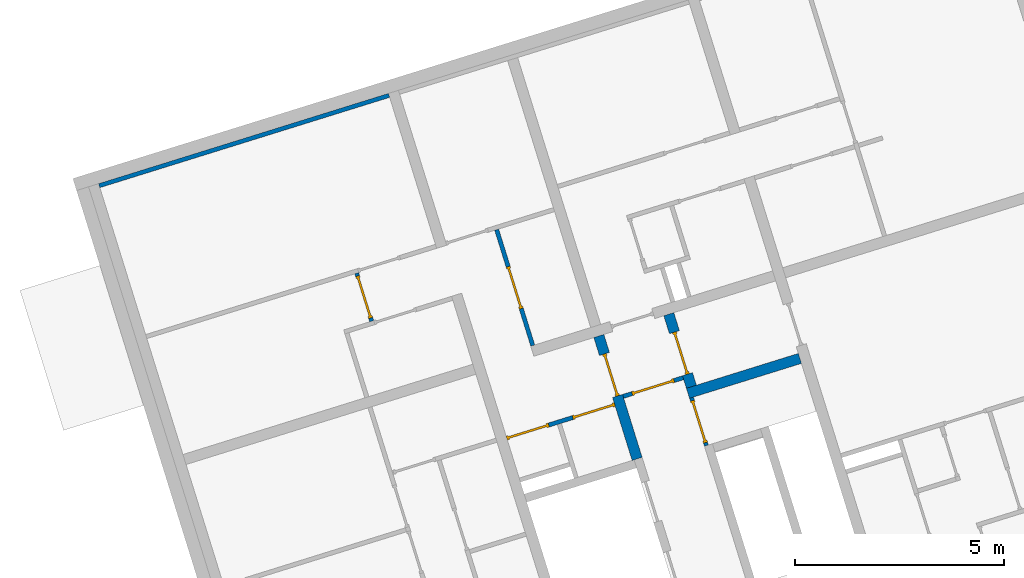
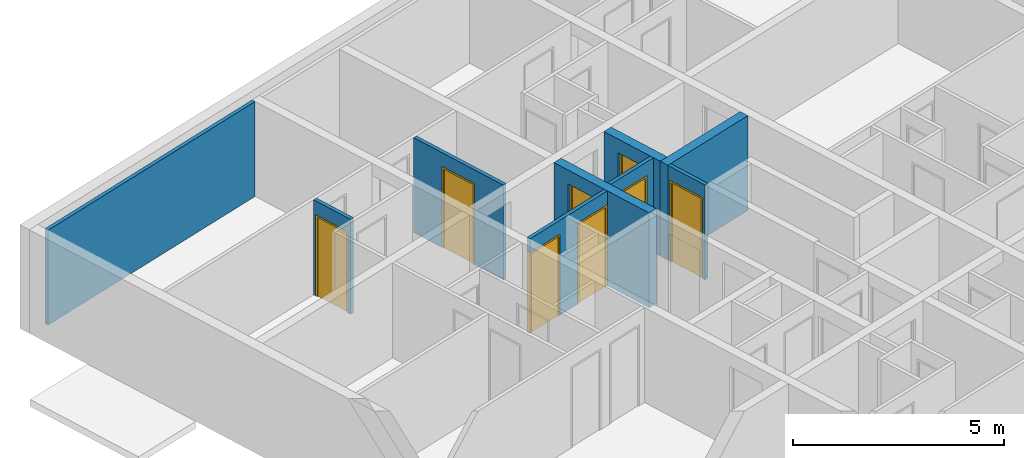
# One storey, part 5 of 9: 9 walls, 8 doors, 10 openings.
"""IFC4 building model written with IfcOpenShell, lengths in metres."""

from ifc_helpers import new_model, entity, si_unit, converted_unit, direction, frame, origin, place, context, subcontext, project, spatial, indexed_curve, outline, extrude, polygons, source, transform, mapped, material, constituent, constituent_set, type_object, type_shapes, element, fill, save


model = new_model("IFC4")

# Units and contexts
model_context = context("Model", 3, precision=1e-05, world=origin(), true_north=direction((6.12323399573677e-17, 1.0)))
body_context = subcontext(model_context, "Body", "Model", "MODEL_VIEW")
ifc_project = project(units=[si_unit("LENGTHUNIT", "METRE"), si_unit("AREAUNIT", "SQUARE_METRE"), si_unit("VOLUMEUNIT", "CUBIC_METRE"), converted_unit("PLANEANGLEUNIT", "DEGREE", entity("IfcPlaneAngleMeasure", 0.0174532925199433), si_unit("PLANEANGLEUNIT", "RADIAN"), dimensions=[0, 0, 0, 0, 0, 0, 0])], contexts=[model_context])

# Site, building, storey
site_placement = place(None, frame((13.1347999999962, 11.9886000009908, 0.0), z_axis=(0.0, 0.0, 1.0), x_axis=(0.954770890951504, 0.297342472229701, 0.0)))
site = spatial("IfcSite", under=ifc_project, at=site_placement, Name="Schiehaven", CompositionType="ELEMENT")
building_placement = place(site_placement, origin())
building = spatial("IfcBuilding", under=site, at=building_placement, Name="VORM huis", CompositionType="ELEMENT")
storey_placement = place(building_placement, frame((0.0, 0.0, 24.9)))
storey = spatial("IfcBuildingStorey", under=building, at=storey_placement, Name="08 achtste verdieping", CompositionType="ELEMENT", Elevation=24.9)

# Walls
ifc_material_1 = material(Name="ntb_ntb_ntb", Category="Miscellaneous")
wall_type_1 = type_object("IfcWallType", Name="Basic Wall:21_WA_gevel_binnenspouwwand 100mm_gen", PredefinedType="STANDARD")
wall_1_placement = place(storey_placement, frame((5.12500000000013, 29.0500000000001, 0.0)))
element("IfcWall", 1, at=wall_1_placement, inside=storey, type_object=wall_type_1, material=ifc_material_1, Name="Binnenspouwblad", ObjectType="Wand", PredefinedType="NOTDEFINED", context=body_context, shape_type="SweptSolid", body=[
    extrude(outline(indexed_curve([(7.24999999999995, 0.0500000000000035), (-1.62265042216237e-16, 0.0500000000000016), (1.62265042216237e-16, -0.0500000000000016), (7.24999999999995, -0.0499999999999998), (7.24999999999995, 0.0500000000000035)], self_intersect=False)), origin(), (0.0, 0.0, 1.0), 2.75),
])
wall_type_2 = type_object("IfcWallType", Name="Basic Wall:22_WA_afbouw_binnenwand 250mm_gen", PredefinedType="STANDARD")
wall_2_placement = place(storey_placement, frame((19.8750000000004, 20.1349999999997, 0.0), z_axis=(0.0, 0.0, 1.0), x_axis=(-1.0, 0.0, 0.0)))
element("IfcWall", 2, at=wall_2_placement, inside=storey, type_object=wall_type_2, material=ifc_material_1, Name="Binnenwand", ObjectType="Wand", PredefinedType="NOTDEFINED", context=body_context, shape_type="SweptSolid", body=[
    extrude(outline(indexed_curve([(2.80000000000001, 0.125000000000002), (2.21820971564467e-15, 0.125000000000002), (2.1132588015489e-15, -0.125000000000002), (2.80000000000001, -0.125000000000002), (2.80000000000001, 0.125000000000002)], self_intersect=False)), origin(), (0.0, 0.0, 1.0), 2.75),
])

# Wall, opening, door
wall_3_placement = place(storey_placement, frame((17.2000000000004, 20.2599999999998, 0.0), z_axis=(0.0, 0.0, 1.0), x_axis=(0.0, 1.0, 0.0)))
wall_3 = element("IfcWall", 3, at=wall_3_placement, inside=storey, type_object=wall_type_2, material=ifc_material_1, Name="Binnenwand", ObjectType="Wand", PredefinedType="NOTDEFINED", context=body_context, shape_type="Tessellation", body=[
    polygons([(0.0, -0.124999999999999, 0.0), (0.315000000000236, -0.124999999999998, 0.0), (0.315000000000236, -0.124999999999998, 2.34999999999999), (1.36500000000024, -0.124999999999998, 2.34999999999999), (1.36500000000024, -0.124999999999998, 0.0), (1.81500000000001, -0.124999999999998, 0.0), (1.81500000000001, -0.124999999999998, 2.75), (0.0, -0.124999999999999, 2.75), (0.315000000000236, 0.125000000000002, 2.34999999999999), (0.315000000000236, 0.125000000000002, 0.0), (0.215000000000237, 0.125000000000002, 0.0), (0.0, 0.125, 0.0), (0.0, 0.125, 2.75), (0.215000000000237, 0.125000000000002, 2.75), (0.315000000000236, 0.125000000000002, 2.75), (1.81500000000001, 0.124999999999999, 2.75), (1.81500000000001, 0.124999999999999, 0.0), (1.36500000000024, 0.125000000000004, 0.0), (1.36500000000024, 0.125000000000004, 2.34999999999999)], [[[1, 2, 3, 4, 5, 6, 7, 8]], [[9, 10, 11, 12, 13, 14, 15, 16, 17, 18, 19]], [[12, 11, 10, 2, 1]], [[7, 6, 17, 16]], [[8, 7, 16, 15, 14, 13]], [[5, 4, 19, 18]], [[3, 2, 10, 9]], [[4, 3, 9, 19]], [[1, 8, 13, 12]], [[18, 17, 6, 5]]], closed=True),
])
opening_1_placement = place(wall_3_placement, frame((0.315000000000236, -0.125000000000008, 0.0)))
opening_1 = element("IfcOpeningElement", 4, at=opening_1_placement, cuts=wall_3, Name="Woningtoegangsdeur", PredefinedType="OPENING", context=body_context, shape_type="SweptSolid", body=[
    extrude(outline(indexed_curve([(2.34999999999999, 1.05), (0.0, 1.05), (0.0, 0.0), (2.34999999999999, 0.0), (2.34999999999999, 1.05)], self_intersect=False)), frame((0.0, 0.0, 0.0), z_axis=(0.0, 1.0, 0.0), x_axis=(0.0, 0.0, 1.0)), (0.0, 0.0, 1.0), 0.25),
])
ifc_material_2 = material(Name="PD_a_binnenwandopeningen", Category="Miscellaneous")
ifc_constituent_1 = constituent(ifc_material_2, Name="PD_a_binnenwandopeningen", Category="Miscellaneous")
ifc_material_3 = material(Name="metaal_aluminium_ntb", Category="Miscellaneous")
ifc_constituent_2 = constituent(ifc_material_3, Name="metaal_aluminium_ntb", Category="Miscellaneous")
ifc_constituent_set_1 = constituent_set(constituents=[ifc_constituent_1, ifc_constituent_2])
door_type_1 = type_object("IfcDoorType", Name="32_DO_binnendeur enkel:woningtoegangsdeur", OperationType="REVOLVING", PredefinedType="DOOR")
shared_shape_1 = source(origin(), body_context, "Body", "SweptSolid", [
    extrude(outline(indexed_curve([(-1.16249999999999, -0.525000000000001), (1.18749999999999, -0.525), (1.18749999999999, 0.525000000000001), (-1.16249999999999, 0.525000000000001), (-1.16249999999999, 0.475), (1.13749999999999, 0.475), (1.13749999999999, -0.475), (-1.16249999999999, -0.475), (-1.16249999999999, -0.525000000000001)], self_intersect=False)), frame((0.525000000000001, 0.0749999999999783, 1.16249999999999), z_axis=(0.0, 1.0, 0.0), x_axis=(0.0, 0.0, 1.0)), (0.0, 0.0, 1.0), 0.1),
    extrude(outline(indexed_curve([(-0.025, -0.475), (0.025, -0.475), (0.025, 0.475), (-0.025, 0.475), (-0.025, -0.475)], self_intersect=False)), frame((0.525000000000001, 0.12499999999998, 0.0), z_axis=(0.0, 0.0, 1.0), x_axis=(0.0, 1.0, 0.0)), (0.0, 0.0, 1.0), 2.29999999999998),
])
type_shapes(door_type_1, [shared_shape_1])
door_1_placement = place(opening_1_placement, origin())
door_1 = element("IfcDoor", 5, at=door_1_placement, inside=storey, type_object=door_type_1, material=ifc_constituent_set_1, Name="Woningtoegangsdeur", ObjectType="Deur", OperationType="REVOLVING", OverallHeight=2.34999999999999, OverallWidth=1.05, PredefinedType="DOOR", context=body_context, shape_type="MappedRepresentation", body=[
    mapped(shared_shape_1, transform((0.0, 0.0, 0.0), scale=1.0)),
])
fill(opening_1, door_1)

wall_4_placement = place(storey_placement, frame((15.4500000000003, 19.0, 0.0), z_axis=(0.0, 0.0, 1.0), x_axis=(0.0, 1.0, 0.0)))
wall_4 = element("IfcWall", 6, at=wall_4_placement, inside=storey, type_object=wall_type_2, material=ifc_material_1, Name="Binnenwand", ObjectType="Wand", PredefinedType="NOTDEFINED", context=body_context, shape_type="Tessellation", body=[
    polygons([(2.62500000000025, -0.124999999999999, 2.34999999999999), (2.62500000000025, -0.124999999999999, 0.0), (3.075, -0.124999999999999, 0.0), (3.075, -0.124999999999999, 2.75), (1.57500000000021, -0.124999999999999, 2.75), (1.47500000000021, -0.124999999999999, 2.75), (4.33146851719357e-15, -0.125, 2.75), (4.33146851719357e-15, -0.125, 0.0), (1.47500000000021, -0.124999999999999, 0.0), (1.57500000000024, -0.124999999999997, 0.0), (1.57500000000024, -0.124999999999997, 2.34999999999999), (3.075, 0.125, 0.0), (2.62500000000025, 0.125000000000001, 0.0), (2.62500000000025, 0.125000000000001, 2.34999999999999), (1.57500000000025, 0.125000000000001, 2.34999999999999), (1.57500000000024, 0.125000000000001, 0.0), (0.0, 0.125, 0.0), (0.0, 0.125, 2.75), (3.075, 0.125, 2.75)], [[[1, 2, 3, 4, 5, 6, 7, 8, 9, 10, 11]], [[12, 13, 14, 15, 16, 17, 18, 19]], [[10, 9, 8, 17, 16]], [[4, 3, 12, 19]], [[7, 6, 5, 4, 19, 18]], [[8, 7, 18, 17]], [[16, 15, 11, 10]], [[14, 13, 2, 1]], [[15, 14, 1, 11]], [[3, 2, 13, 12]]], closed=True),
])
opening_2_placement = place(wall_4_placement, frame((2.62500000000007, 0.124999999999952, 0.0)))
opening_2 = element("IfcOpeningElement", 7, at=opening_2_placement, cuts=wall_4, Name="Woningtoegangsdeur", PredefinedType="OPENING", context=body_context, shape_type="SweptSolid", body=[
    extrude(outline(indexed_curve([(2.34999999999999, 1.05), (0.0, 1.05), (0.0, -4.02144990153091e-29), (2.34999999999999, -4.02144990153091e-29), (2.34999999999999, 1.05)], self_intersect=False)), frame((0.0, 0.0, 0.0), z_axis=(0.0, -1.0, 0.0), x_axis=(0.0, 0.0, 1.0)), (0.0, 0.0, 1.0), 0.25),
])
ifc_constituent_3 = constituent(ifc_material_2, Name="PD_a_binnenwandopeningen", Category="Miscellaneous")
ifc_constituent_4 = constituent(ifc_material_3, Name="metaal_aluminium_ntb", Category="Miscellaneous")
ifc_constituent_set_2 = constituent_set(constituents=[ifc_constituent_3, ifc_constituent_4])
door_2_placement = place(opening_2_placement, frame((0.0, 0.0, 0.0), z_axis=(0.0, 0.0, 1.0), x_axis=(-1.0, 0.0, 0.0)))
door_2 = element("IfcDoor", 8, at=door_2_placement, inside=storey, type_object=door_type_1, material=ifc_constituent_set_2, Name="Woningtoegangsdeur", ObjectType="Deur", OperationType="REVOLVING", OverallHeight=2.34999999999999, OverallWidth=1.05, PredefinedType="DOOR", context=body_context, shape_type="MappedRepresentation", body=[
    mapped(shared_shape_1, transform((0.0, 0.0, 0.0), scale=1.0)),
])
fill(opening_2, door_2)

wall_type_3 = type_object("IfcWallType", Name="Basic Wall:22_WA_afbouw_binnenwand 100mm_gen", PredefinedType="STANDARD")
wall_5_placement = place(storey_placement, frame((17.1250000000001, 20.0099999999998, 0.0), z_axis=(0.0, 0.0, 1.0), x_axis=(0.0, -1.0, 0.0)))
wall_5 = element("IfcWall", 9, at=wall_5_placement, inside=storey, type_object=wall_type_3, material=ifc_material_1, Name="Binnenwand", ObjectType="Wand", PredefinedType="NOTDEFINED", context=body_context, shape_type="Tessellation", body=[
    polygons([(1.19999999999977, -0.050000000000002, 0.0), (1.19999999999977, -0.050000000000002, 2.75), (0.0, -0.0500000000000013, 2.75), (0.0, -0.0500000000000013, 0.0), (0.074999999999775, -0.0500000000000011, 0.0), (0.074999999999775, -0.0500000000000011, 2.34999999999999), (1.12499999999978, -0.0500000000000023, 2.34999999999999), (1.12499999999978, -0.0500000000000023, 0.0), (1.19999999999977, 0.0499999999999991, 2.75), (1.19999999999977, 0.0499999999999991, 0.0), (1.12499999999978, 0.0499999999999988, 0.0), (1.12499999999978, 0.0499999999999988, 2.34999999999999), (0.074999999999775, 0.0499999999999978, 2.34999999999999), (0.074999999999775, 0.0499999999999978, 0.0), (0.0, 0.0499999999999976, 0.0), (0.0, 0.0499999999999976, 2.75)], [[[1, 2, 3, 4, 5, 6, 7, 8]], [[9, 10, 11, 12, 13, 14, 15, 16]], [[4, 15, 14, 5]], [[2, 1, 10, 9]], [[3, 2, 9, 16]], [[13, 6, 5, 14]], [[6, 13, 12, 7]], [[7, 12, 11, 8]], [[4, 3, 16, 15]], [[10, 1, 8, 11]]], closed=True),
])
opening_3_placement = place(wall_5_placement, frame((0.074999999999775, -0.0500000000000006, 0.0)))
opening_3 = element("IfcOpeningElement", 10, at=opening_3_placement, cuts=wall_5, Name="Vluchtdeur", PredefinedType="OPENING", context=body_context, shape_type="SweptSolid", body=[
    extrude(outline(indexed_curve([(2.34999999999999, 1.05), (0.0, 1.05), (0.0, -3.51974282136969e-30), (2.34999999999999, -3.51974282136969e-30), (2.34999999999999, 1.05)], self_intersect=False)), frame((0.0, 0.0, 0.0), z_axis=(0.0, 1.0, 0.0), x_axis=(0.0, 0.0, 1.0)), (0.0, 0.0, 1.0), 0.1),
])
ifc_constituent_5 = constituent(ifc_material_2, Name="PD_a_binnenwandopeningen", Category="Miscellaneous")
ifc_constituent_6 = constituent(ifc_material_3, Name="metaal_aluminium_ntb", Category="Miscellaneous")
ifc_constituent_set_3 = constituent_set(constituents=[ifc_constituent_5, ifc_constituent_6])
door_type_2 = type_object("IfcDoorType", Name="32_DO_binnendeur enkel:binnendeur zelfsluitend 30min", OperationType="NOTDEFINED", PredefinedType="DOOR")
shared_shape_2 = source(origin(), body_context, "Body", "SweptSolid", [
    extrude(outline(indexed_curve([(-1.16249999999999, -0.525000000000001), (1.18749999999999, -0.525), (1.18749999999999, 0.525), (-1.16249999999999, 0.525), (-1.16249999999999, 0.475), (1.13749999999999, 0.475), (1.13749999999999, -0.475), (-1.16249999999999, -0.475), (-1.16249999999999, -0.525000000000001)], self_intersect=False)), frame((0.525000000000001, 0.0, 1.16249999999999), z_axis=(0.0, 1.0, 0.0), x_axis=(0.0, 0.0, 1.0)), (0.0, 0.0, 1.0), 0.1),
    extrude(outline(indexed_curve([(-0.025, -0.475), (0.025, -0.475), (0.025, 0.475), (-0.025, 0.475), (-0.025, -0.475)], self_intersect=False)), frame((0.525000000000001, 0.0499999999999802, 0.0), z_axis=(0.0, 0.0, 1.0), x_axis=(0.0, 1.0, 0.0)), (0.0, 0.0, 1.0), 2.29999999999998),
])
type_shapes(door_type_2, [shared_shape_2])
door_3_placement = place(opening_3_placement, origin())
door_3 = element("IfcDoor", 11, at=door_3_placement, inside=storey, type_object=door_type_2, material=ifc_constituent_set_3, Name="Vluchtdeur", ObjectType="Deur", OperationType="NOTDEFINED", OverallHeight=2.34999999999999, OverallWidth=1.05, PredefinedType="DOOR", context=body_context, shape_type="MappedRepresentation", body=[
    mapped(shared_shape_2, transform((0.0, 0.0, 0.0), scale=1.0)),
])
fill(opening_3, door_3)

wall_6_placement = place(storey_placement, frame((17.0750000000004, 20.525, 0.0), z_axis=(0.0, 0.0, 1.0), x_axis=(-1.0, 0.0, 0.0)))
wall_6 = element("IfcWall", 12, at=wall_6_placement, inside=storey, type_object=wall_type_3, material=ifc_material_1, Name="Binnenwand", ObjectType="Wand", PredefinedType="NOTDEFINED", context=body_context, shape_type="Tessellation", body=[
    polygons([(1.50000000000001, -0.0499999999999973, 2.75), (7.85851977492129e-16, -0.0499999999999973, 2.75), (7.85851977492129e-16, -0.0499999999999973, 2.34999999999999), (7.85851977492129e-16, -0.0499999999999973, 0.0), (0.22500000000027, -0.0499999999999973, 0.0), (0.225000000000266, -0.0499999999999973, 2.34999999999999), (1.27500000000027, -0.0499999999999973, 2.34999999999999), (1.27500000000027, -0.0499999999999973, 0.0), (1.50000000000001, -0.0499999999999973, 0.0), (1.5, -0.0499999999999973, 2.34999999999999), (3.01092306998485e-15, 0.0500000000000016, 2.75), (1.50000000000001, 0.0500000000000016, 2.75), (1.50000000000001, 0.0500000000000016, 0.0), (1.27500000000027, 0.0500000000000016, 0.0), (1.27500000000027, 0.0500000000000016, 2.34999999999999), (0.225000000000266, 0.0500000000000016, 2.34999999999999), (0.22500000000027, 0.0500000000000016, 0.0), (3.01092306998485e-15, 0.0500000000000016, 0.0)], [[[1, 2, 3, 4, 5, 6, 7, 8, 9, 10]], [[11, 12, 13, 14, 15, 16, 17, 18]], [[4, 18, 17, 5]], [[2, 1, 12, 11]], [[16, 6, 5, 17]], [[6, 16, 15, 7]], [[7, 15, 14, 8]], [[1, 10, 9, 13, 12]], [[4, 3, 2, 11, 18]], [[13, 9, 8, 14]]], closed=True),
])
opening_4_placement = place(wall_6_placement, frame((0.225000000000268, -0.0500000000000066, 0.0)))
opening_4 = element("IfcOpeningElement", 13, at=opening_4_placement, cuts=wall_6, Name="Vluchtdeur", PredefinedType="OPENING", context=body_context, shape_type="SweptSolid", body=[
    extrude(outline(indexed_curve([(2.34999999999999, 1.05), (0.0, 1.05), (0.0, 1.35358391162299e-15), (2.34999999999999, 1.35358391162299e-15), (2.34999999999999, 1.05)], self_intersect=False)), frame((0.0, 0.0, 0.0), z_axis=(0.0, 1.0, 0.0), x_axis=(0.0, 0.0, 1.0)), (0.0, 0.0, 1.0), 0.1),
])
ifc_constituent_7 = constituent(ifc_material_2, Name="PD_a_binnenwandopeningen", Category="Miscellaneous")
ifc_constituent_8 = constituent(ifc_material_3, Name="metaal_aluminium_ntb", Category="Miscellaneous")
ifc_constituent_set_4 = constituent_set(constituents=[ifc_constituent_7, ifc_constituent_8])
door_4_placement = place(opening_4_placement, origin())
door_4 = element("IfcDoor", 14, at=door_4_placement, inside=storey, type_object=door_type_2, material=ifc_constituent_set_4, Name="Vluchtdeur", ObjectType="Deur", OperationType="NOTDEFINED", OverallHeight=2.34999999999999, OverallWidth=1.05, PredefinedType="DOOR", context=body_context, shape_type="MappedRepresentation", body=[
    mapped(shared_shape_2, transform((0.0, 0.0, 0.0), scale=1.0)),
])
fill(opening_4, door_4)

# Wall, openings, door
wall_7_placement = place(storey_placement, frame((10.3750000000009, 24.0250000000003, 0.0), z_axis=(0.0, 0.0, 1.0), x_axis=(0.0, 1.0, 0.0)))
wall_7 = element("IfcWall", 15, at=wall_7_placement, inside=storey, type_object=wall_type_3, material=ifc_material_1, Name="Binnenwand", ObjectType="Wand", PredefinedType="NOTDEFINED", context=body_context, shape_type="Tessellation", body=[
    polygons([(1.19999999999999, -0.0499999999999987, 2.75), (0.0, -0.0500000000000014, 2.75), (0.0, -0.0499999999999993, 2.34999999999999), (0.0, -0.0500000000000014, 0.0), (0.0799999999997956, -0.0500000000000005, 0.0), (0.0799999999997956, -0.0500000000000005, 2.34999999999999), (1.1299999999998, -0.0499999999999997, 2.34999999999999), (1.1299999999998, -0.0499999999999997, 0.0), (1.19999999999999, -0.0499999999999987, 0.0), (1.19999999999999, -0.0500000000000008, 2.34999999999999), (0.0, 0.0499999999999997, 2.75), (1.19999999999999, 0.0499999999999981, 2.75), (1.19999999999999, 0.0499999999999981, 0.0), (1.1299999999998, 0.0499999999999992, 0.0), (1.1299999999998, 0.0499999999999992, 2.34999999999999), (0.0799999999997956, 0.0499999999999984, 2.34999999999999), (0.0799999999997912, 0.0499999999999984, 0.0), (0.0, 0.0499999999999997, 0.0)], [[[1, 2, 3, 4, 5, 6, 7, 8, 9, 10]], [[11, 12, 13, 14, 15, 16, 17, 18]], [[4, 18, 17, 5]], [[2, 1, 12, 11]], [[1, 10, 9, 13, 12]], [[4, 3, 2, 11, 18]], [[7, 15, 14, 8]], [[15, 7, 6, 16]], [[16, 6, 5, 17]], [[13, 9, 8, 14]]], closed=True),
])
opening_5_placement = place(wall_7_placement, frame((1.1299999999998, 0.0500000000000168, 0.0)))
opening_5 = element("IfcOpeningElement", 16, at=opening_5_placement, cuts=wall_7, Name="Binnendeur", PredefinedType="OPENING", context=body_context, shape_type="SweptSolid", body=[
    extrude(outline(indexed_curve([(2.34999999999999, 0.0), (2.34999999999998, 1.05), (0.0, 1.05), (2.16573425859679e-15, 0.0), (2.34999999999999, 0.0)], self_intersect=False)), frame((0.0, 0.0, 0.0), z_axis=(0.0, -1.0, 0.0), x_axis=(0.0, 0.0, 1.0)), (0.0, 0.0, 1.0), 0.1),
])
opening_6_placement = place(wall_7_placement, frame((-24.0250000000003, 10.3750000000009, 0.0), z_axis=(0.0, 0.0, 1.0), x_axis=(0.0, -1.0, 0.0)))
element("IfcOpeningElement", 17, at=opening_6_placement, cuts=wall_7, Name="Binnendeur", PredefinedType="OPENING", context=body_context, shape_type="SweptSolid", body=[
    extrude(outline(indexed_curve([(-1.17499999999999, -0.524999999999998), (1.17499999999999, -0.525000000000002), (1.17499999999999, 0.525000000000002), (-1.17499999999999, 0.525000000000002), (-1.17499999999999, -0.524999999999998)], self_intersect=False)), frame((11.8490000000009, 24.6300000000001, 1.17499999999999), z_axis=(-1.0, 0.0, 0.0), x_axis=(0.0, 0.0, -1.0)), (0.0, 0.0, 1.0), 3.048),
])
ifc_constituent_9 = constituent(ifc_material_2, Name="PD_a_binnenwandopeningen", Category="Miscellaneous")
ifc_constituent_10 = constituent(ifc_material_3, Name="metaal_aluminium_ntb", Category="Miscellaneous")
ifc_constituent_set_5 = constituent_set(constituents=[ifc_constituent_9, ifc_constituent_10])
door_type_3 = type_object("IfcDoorType", Name="32_DO_binnendeur enkel:binnendeur", OperationType="REVOLVING", PredefinedType="DOOR")
shared_shape_3 = source(origin(), body_context, "Body", "SweptSolid", [
    extrude(outline(indexed_curve([(0.475, -1.16249999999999), (0.525, -1.16249999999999), (0.525, 1.18749999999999), (-0.525, 1.18749999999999), (-0.525, -1.16249999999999), (-0.475, -1.16249999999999), (-0.475, 1.13749999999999), (0.475, 1.13749999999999), (0.475, -1.16249999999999)], self_intersect=False)), frame((0.525000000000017, 0.100000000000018, 1.16249999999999), z_axis=(0.0, -1.0, 0.0), x_axis=(1.0, 0.0, 0.0)), (0.0, 0.0, 1.0), 0.1),
    extrude(outline(indexed_curve([(-0.475, -0.025), (0.475, -0.025), (0.475, 0.025), (-0.475, 0.025), (-0.475, -0.025)], self_intersect=False)), frame((0.525000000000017, 0.0499999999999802, 0.0)), (0.0, 0.0, 1.0), 2.29999999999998),
])
door_5_placement = place(opening_5_placement, frame((0.0, 0.0, 0.0), z_axis=(0.0, 0.0, 1.0), x_axis=(-1.0, 0.0, 0.0)))
door_5 = element("IfcDoor", 18, at=door_5_placement, inside=storey, type_object=door_type_3, material=ifc_constituent_set_5, Name="Binnendeur", ObjectType="Deur", OperationType="REVOLVING", OverallHeight=2.34999999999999, OverallWidth=1.05, PredefinedType="DOOR", context=body_context, shape_type="MappedRepresentation", body=[
    mapped(shared_shape_3, transform((0.0, 0.0, 0.0), scale=1.0)),
])
fill(opening_5, door_5)

# Wall, openings, doors
wall_8_placement = place(storey_placement, frame((12.6250000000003, 20.4, 0.0)))
wall_8 = element("IfcWall", 19, at=wall_8_placement, inside=storey, type_object=wall_type_3, material=ifc_material_1, Name="Binnenwand", ObjectType="Wand", PredefinedType="NOTDEFINED", context=body_context, shape_type="Tessellation", body=[
    polygons([(2.70000000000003, -0.0499999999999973, 2.75), (1.35000000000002, -0.0499999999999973, 2.75), (1.25000000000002, -0.0499999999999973, 2.75), (9.09406101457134e-16, -0.0499999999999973, 2.75), (9.09406101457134e-16, -0.0499999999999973, 2.34999999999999), (1.05000000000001, -0.0499999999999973, 2.34999999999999), (1.05000000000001, -0.0499999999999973, 0.0), (1.25000000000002, -0.0499999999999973, 0.0), (1.35000000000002, -0.0499999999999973, 0.0), (1.65000000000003, -0.0499999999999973, 0.0), (1.65000000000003, -0.0499999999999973, 2.34999999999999), (2.70000000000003, -0.0499999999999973, 2.34999999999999), (1.89829959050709e-15, 0.0500000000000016, 2.75), (2.70000000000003, 0.0500000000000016, 2.75), (2.70000000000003, 0.0500000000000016, 2.34999999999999), (1.65000000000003, 0.0500000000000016, 2.34999999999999), (1.65000000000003, 0.0500000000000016, 0.0), (1.05000000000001, 0.0500000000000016, 0.0), (1.05000000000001, 0.0500000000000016, 2.34999999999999), (1.89829959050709e-15, 0.0500000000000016, 2.34999999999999)], [[[1, 2, 3, 4, 5, 6, 7, 8, 9, 10, 11, 12]], [[13, 14, 15, 16, 17, 18, 19, 20]], [[17, 10, 9, 8, 7, 18]], [[14, 1, 12, 15]], [[4, 3, 2, 1, 14, 13]], [[4, 13, 20, 5]], [[6, 19, 18, 7]], [[19, 6, 5, 20]], [[16, 11, 10, 17]], [[11, 16, 15, 12]]], closed=True),
])
opening_7_placement = place(wall_8_placement, frame((0.0, -0.050000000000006, 0.0)))
opening_7 = element("IfcOpeningElement", 20, at=opening_7_placement, cuts=wall_8, Name="Binnendeur", PredefinedType="OPENING", context=body_context, shape_type="SweptSolid", body=[
    extrude(outline(indexed_curve([(2.34999999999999, 1.05), (0.0, 1.05), (0.0, 1.35358391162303e-15), (2.34999999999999, 1.35358391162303e-15), (2.34999999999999, 1.05)], self_intersect=False)), frame((0.0, 0.0, 0.0), z_axis=(0.0, 1.0, 0.0), x_axis=(0.0, 0.0, 1.0)), (0.0, 0.0, 1.0), 0.1),
])
opening_8_placement = place(wall_8_placement, frame((-12.6250000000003, -20.4, 0.0)))
element("IfcOpeningElement", 21, at=opening_8_placement, cuts=wall_8, Name="Binnendeur", PredefinedType="OPENING", context=body_context, shape_type="SweptSolid", body=[
    extrude(outline(indexed_curve([(-1.17499999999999, -0.525000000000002), (1.17499999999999, -0.525), (1.17499999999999, 0.525), (-1.17499999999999, 0.525), (-1.17499999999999, -0.525000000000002)], self_intersect=False)), frame((13.1500000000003, 18.826, 1.17499999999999), z_axis=(0.0, 1.0, 0.0), x_axis=(0.0, 0.0, -1.0)), (0.0, 0.0, 1.0), 3.048),
])
opening_9_placement = place(wall_8_placement, frame((1.65000000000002, -0.0500000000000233, 0.0)))
opening_9 = element("IfcOpeningElement", 22, at=opening_9_placement, cuts=wall_8, Name="Binnendeur", PredefinedType="OPENING", context=body_context, shape_type="SweptSolid", body=[
    extrude(outline(indexed_curve([(2.34999999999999, 1.05), (0.0, 1.05), (0.0, 1.35358391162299e-15), (2.34999999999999, 1.35358391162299e-15), (2.34999999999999, 1.05)], self_intersect=False)), frame((0.0, 0.0, 0.0), z_axis=(0.0, 1.0, 0.0), x_axis=(0.0, 0.0, 1.0)), (0.0, 0.0, 1.0), 0.1),
])
ifc_constituent_11 = constituent(ifc_material_2, Name="PD_a_binnenwandopeningen", Category="Miscellaneous")
ifc_constituent_12 = constituent(ifc_material_3, Name="metaal_aluminium_ntb", Category="Miscellaneous")
ifc_constituent_set_6 = constituent_set(constituents=[ifc_constituent_11, ifc_constituent_12])
shared_shape_4 = source(origin(), body_context, "Body", "SweptSolid", [
    extrude(outline(indexed_curve([(-1.16249999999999, -0.525000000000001), (1.18749999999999, -0.525), (1.18749999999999, 0.525), (-1.16249999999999, 0.525), (-1.16249999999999, 0.475), (1.13749999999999, 0.475), (1.13749999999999, -0.475), (-1.16249999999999, -0.475), (-1.16249999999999, -0.525000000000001)], self_intersect=False)), frame((0.525000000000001, 0.0, 1.16249999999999), z_axis=(0.0, 1.0, 0.0), x_axis=(0.0, 0.0, 1.0)), (0.0, 0.0, 1.0), 0.1),
    extrude(outline(indexed_curve([(-0.025, -0.475), (0.025, -0.475), (0.025, 0.475), (-0.025, 0.475), (-0.025, -0.475)], self_intersect=False)), frame((0.525000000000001, 0.0499999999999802, 0.0), z_axis=(0.0, 0.0, 1.0), x_axis=(0.0, 1.0, 0.0)), (0.0, 0.0, 1.0), 2.29999999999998),
])
type_shapes(door_type_3, [shared_shape_4])
door_6_placement = place(opening_7_placement, origin())
door_6 = element("IfcDoor", 23, at=door_6_placement, inside=storey, type_object=door_type_3, material=ifc_constituent_set_6, Name="Binnendeur", ObjectType="Deur", OperationType="REVOLVING", OverallHeight=2.34999999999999, OverallWidth=1.05, PredefinedType="DOOR", context=body_context, shape_type="MappedRepresentation", body=[
    mapped(shared_shape_4, transform((0.0, 0.0, 0.0), scale=1.0)),
])
fill(opening_7, door_6)
ifc_constituent_13 = constituent(ifc_material_2, Name="PD_a_binnenwandopeningen", Category="Miscellaneous")
ifc_constituent_14 = constituent(ifc_material_3, Name="metaal_aluminium_ntb", Category="Miscellaneous")
ifc_constituent_set_7 = constituent_set(constituents=[ifc_constituent_13, ifc_constituent_14])
door_7_placement = place(opening_9_placement, origin())
door_7 = element("IfcDoor", 24, at=door_7_placement, inside=storey, type_object=door_type_3, material=ifc_constituent_set_7, Name="Binnendeur", ObjectType="Deur", OperationType="REVOLVING", OverallHeight=2.34999999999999, OverallWidth=1.05, PredefinedType="DOOR", context=body_context, shape_type="MappedRepresentation", body=[
    mapped(shared_shape_4, transform((0.0, 0.0, 0.0), scale=1.0)),
])
fill(opening_9, door_7)

# Wall, opening, door
wall_9_placement = place(storey_placement, frame((13.8750000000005, 22.3249999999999, 0.0), z_axis=(0.0, 0.0, 1.0), x_axis=(0.0, 1.0, 0.0)))
wall_9 = element("IfcWall", 25, at=wall_9_placement, inside=storey, type_object=wall_type_3, material=ifc_material_1, Name="Binnenwand", ObjectType="Wand", PredefinedType="NOTDEFINED", context=body_context, shape_type="Tessellation", body=[
    polygons([(0.0, -0.0499999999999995, 0.0), (0.925000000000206, -0.0499999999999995, 0.0), (0.925000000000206, -0.0499999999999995, 2.34999999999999), (1.97500000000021, -0.0499999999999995, 2.34999999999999), (1.97500000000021, -0.0499999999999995, 0.0), (2.90000000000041, -0.0499999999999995, 0.0), (2.90000000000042, -0.0499999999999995, 2.75), (0.0, -0.0499999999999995, 2.75), (0.925000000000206, 0.0500000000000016, 2.34999999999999), (0.925000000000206, 0.0500000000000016, 0.0), (0.0, 0.0500000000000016, 0.0), (0.0, 0.0500000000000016, 2.75), (2.90000000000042, 0.0500000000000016, 2.75), (2.90000000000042, 0.0500000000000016, 0.0), (1.97500000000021, 0.0500000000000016, 0.0), (1.97500000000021, 0.0500000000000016, 2.34999999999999)], [[[1, 2, 3, 4, 5, 6, 7, 8]], [[9, 10, 11, 12, 13, 14, 15, 16]], [[11, 10, 2, 1]], [[8, 7, 13, 12]], [[1, 8, 12, 11]], [[5, 4, 16, 15]], [[3, 2, 10, 9]], [[4, 3, 9, 16]], [[7, 6, 14, 13]], [[15, 14, 6, 5]]], closed=True),
])
opening_10_placement = place(wall_9_placement, frame((0.925000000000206, -0.0499999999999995, 0.0)))
opening_10 = element("IfcOpeningElement", 26, at=opening_10_placement, cuts=wall_9, Name="Binnendeur", PredefinedType="OPENING", context=body_context, shape_type="SweptSolid", body=[
    extrude(outline(indexed_curve([(2.34999999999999, 1.05), (0.0, 1.05), (0.0, 0.0), (2.34999999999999, 0.0), (2.34999999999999, 1.05)], self_intersect=False)), frame((0.0, 0.0, 0.0), z_axis=(0.0, 1.0, 0.0), x_axis=(0.0, 0.0, 1.0)), (0.0, 0.0, 1.0), 0.1),
])
ifc_constituent_15 = constituent(ifc_material_2, Name="PD_a_binnenwandopeningen", Category="Miscellaneous")
ifc_constituent_16 = constituent(ifc_material_3, Name="metaal_aluminium_ntb", Category="Miscellaneous")
ifc_constituent_set_8 = constituent_set(constituents=[ifc_constituent_15, ifc_constituent_16])
door_8_placement = place(opening_10_placement, origin())
door_8 = element("IfcDoor", 27, at=door_8_placement, inside=storey, type_object=door_type_3, material=ifc_constituent_set_8, Name="Binnendeur", ObjectType="Deur", OperationType="REVOLVING", OverallHeight=2.34999999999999, OverallWidth=1.05, PredefinedType="DOOR", context=body_context, shape_type="MappedRepresentation", body=[
    mapped(shared_shape_4, transform((0.0, 0.0, 0.0), scale=1.0)),
])
fill(opening_10, door_8)

save(model, "model.ifc")
